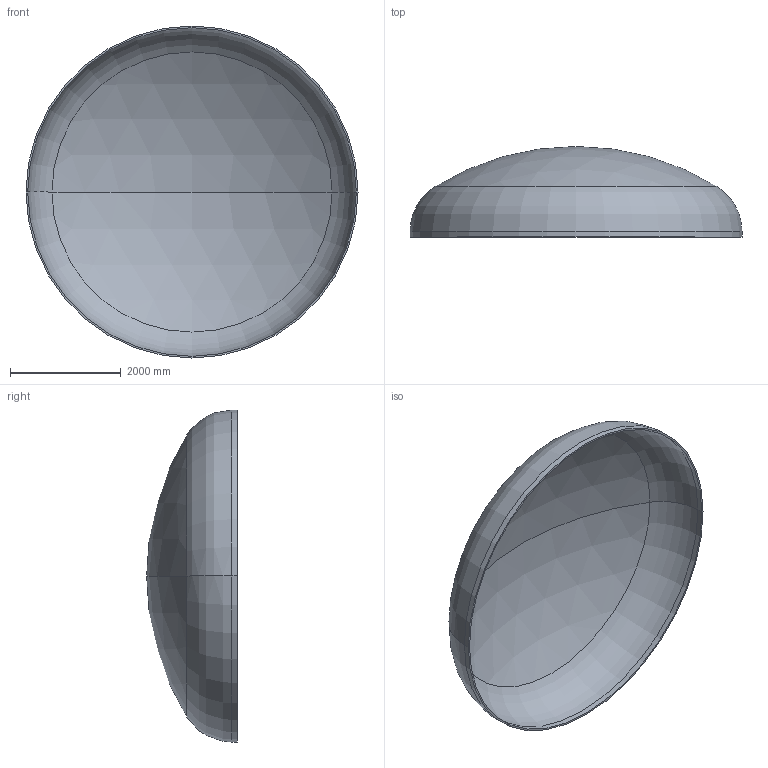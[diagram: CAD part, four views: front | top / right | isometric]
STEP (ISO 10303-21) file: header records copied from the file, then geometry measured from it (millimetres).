
FILE_DESCRIPTION (( 'STEP AP203' ), '1' );
FILE_NAME ('DIN 28013 Korbbogenform_-_Boden DIN 28013 - 6000 x 100 - I - s=31.step', '2016-07-04T10:36:31', ( '' ), ( '' ), 'SwSTEP 2.0', 'SolidWorks 2013', '' );
FILE_SCHEMA (( 'CONFIG_CONTROL_DESIGN' ));
Length unit declared in the file: millimetre
Products named in the file (1): DIN 28013 Korbbogenform_-_Boden DIN 28013 - 6000 x 100 - I - s=31
Bounding box: 6000 x 1638.94 x 6000 mm (x, y, z)
Volume: 1264108021.9 mm3; surface area: 82138654 mm2
Topology: 1 solids, 1 shells, 13 faces, 24 edges, 14 vertices
Faces by surface type: torus 4, cylinder 4, sphere 4, plane 1
Entity records: 407 total; most frequent: DIRECTION 72, CARTESIAN_POINT 52, ORIENTED_EDGE 48, AXIS2_PLACEMENT_3D 34, EDGE_CURVE 24, CIRCLE 20, VERTEX_POINT 14, EDGE_LOOP 14
